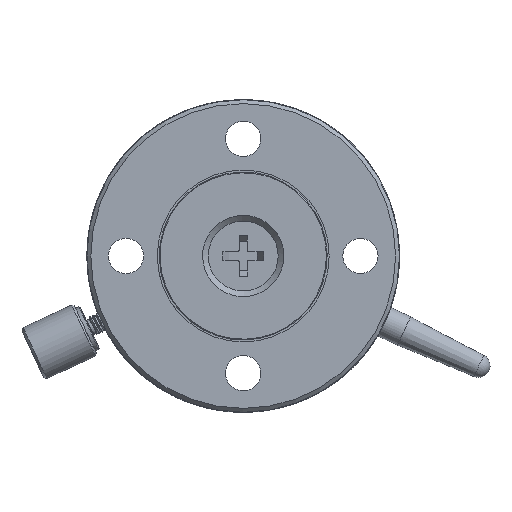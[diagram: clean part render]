
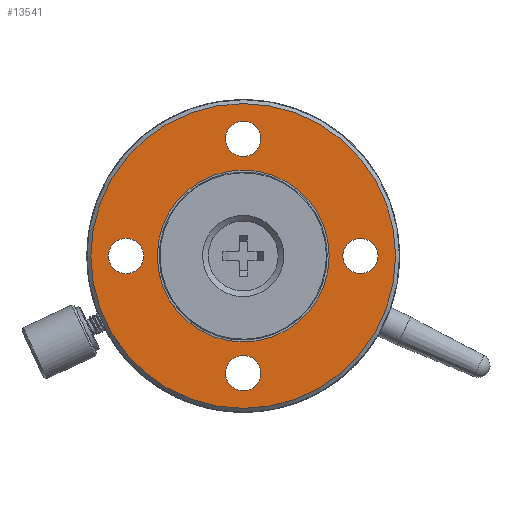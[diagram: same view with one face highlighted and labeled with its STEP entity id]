
A CAD part, front view. The second image highlights one B-rep face of the part: STEP entity #13541.
In plain terms, the highlighted planar face has unit normal (0, -1, 0).
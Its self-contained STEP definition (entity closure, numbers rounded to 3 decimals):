
#434 = DIRECTION ( 'NONE',  ( 0., 0., 1. ) ) ;
#5270 = VERTEX_POINT ( 'NONE', #32963 ) ;
#5706 = VERTEX_POINT ( 'NONE', #12540 ) ;
#6045 = CARTESIAN_POINT ( 'NONE',  ( 23.036, 38.62, 14.208 ) ) ;
#6937 = DIRECTION ( 'NONE',  ( 0., 1., 0. ) ) ;
#8744 = CIRCLE ( 'NONE', #26154, 11. ) ;
#11530 = EDGE_LOOP ( 'NONE', ( #85266 ) ) ;
#12540 = CARTESIAN_POINT ( 'NONE',  ( 23.036, 38.62, 40.208 ) ) ;
#13541 = ADVANCED_FACE ( 'NONE', ( #66664, #73470, #32132, #59855, #53030, #80727 ), #18508, .F. ) ;
#16350 = AXIS2_PLACEMENT_3D ( 'NONE', #77631, #83538, #434 ) ;
#17286 = CARTESIAN_POINT ( 'NONE',  ( 23.036, 38.62, 44.208 ) ) ;
#18097 = DIRECTION ( 'NONE',  ( 0., 0., 1. ) ) ;
#18425 = ORIENTED_EDGE ( 'NONE', *, *, #37138, .T. ) ;
#18508 = PLANE ( 'NONE',  #35395 ) ;
#20691 = CIRCLE ( 'NONE', #16350, 19.5 ) ;
#21542 = AXIS2_PLACEMENT_3D ( 'NONE', #17286, #30026, #58645 ) ;
#21560 = EDGE_LOOP ( 'NONE', ( #76460 ) ) ;
#24015 = EDGE_LOOP ( 'NONE', ( #18425 ) ) ;
#26154 = AXIS2_PLACEMENT_3D ( 'NONE', #79443, #52645, #45854 ) ;
#26847 = EDGE_CURVE ( 'NONE', #74086, #74086, #20691, .T. ) ;
#28454 = CARTESIAN_POINT ( 'NONE',  ( 3.036, 38.62, 29.208 ) ) ;
#29170 = EDGE_LOOP ( 'NONE', ( #80883 ) ) ;
#30026 = DIRECTION ( 'NONE',  ( 0., 1., 0. ) ) ;
#30737 = CARTESIAN_POINT ( 'NONE',  ( 23.036, 38.62, 46.458 ) ) ;
#31841 = ORIENTED_EDGE ( 'NONE', *, *, #26847, .T. ) ;
#32132 = FACE_BOUND ( 'NONE', #43245, .T. ) ;
#32963 = CARTESIAN_POINT ( 'NONE',  ( 23.036, 38.62, 16.458 ) ) ;
#33919 = DIRECTION ( 'NONE',  ( 0., 1., 0. ) ) ;
#35395 = AXIS2_PLACEMENT_3D ( 'NONE', #28454, #33919, #48031 ) ;
#35758 = VERTEX_POINT ( 'NONE', #63487 ) ;
#37138 = EDGE_CURVE ( 'NONE', #37544, #37544, #60691, .T. ) ;
#37544 = VERTEX_POINT ( 'NONE', #30737 ) ;
#39548 = CARTESIAN_POINT ( 'NONE',  ( 23.036, 38.62, 48.708 ) ) ;
#40777 = CIRCLE ( 'NONE', #53793, 2.25 ) ;
#41660 = EDGE_CURVE ( 'NONE', #35758, #35758, #52500, .T. ) ;
#43245 = EDGE_LOOP ( 'NONE', ( #88255 ) ) ;
#43834 = AXIS2_PLACEMENT_3D ( 'NONE', #52686, #87636, #81278 ) ;
#45854 = DIRECTION ( 'NONE',  ( 0., 0., 1. ) ) ;
#48031 = DIRECTION ( 'NONE',  ( 0., 0., 1. ) ) ;
#51732 = CARTESIAN_POINT ( 'NONE',  ( 8.036, 38.62, 29.208 ) ) ;
#52500 = CIRCLE ( 'NONE', #43834, 2.25 ) ;
#52645 = DIRECTION ( 'NONE',  ( 0., 1., 0. ) ) ;
#52686 = CARTESIAN_POINT ( 'NONE',  ( 38.036, 38.62, 29.208 ) ) ;
#53030 = FACE_BOUND ( 'NONE', #21560, .T. ) ;
#53793 = AXIS2_PLACEMENT_3D ( 'NONE', #51732, #58991, #18097 ) ;
#53869 = CARTESIAN_POINT ( 'NONE',  ( 8.036, 38.62, 31.458 ) ) ;
#58645 = DIRECTION ( 'NONE',  ( 0., 0., 1. ) ) ;
#58991 = DIRECTION ( 'NONE',  ( 0., 1., 0. ) ) ;
#59855 = FACE_BOUND ( 'NONE', #11530, .T. ) ;
#60133 = EDGE_CURVE ( 'NONE', #65714, #65714, #40777, .T. ) ;
#60512 = EDGE_CURVE ( 'NONE', #5270, #5270, #74084, .T. ) ;
#60691 = CIRCLE ( 'NONE', #21542, 2.25 ) ;
#63487 = CARTESIAN_POINT ( 'NONE',  ( 38.036, 38.62, 31.458 ) ) ;
#65714 = VERTEX_POINT ( 'NONE', #53869 ) ;
#66664 = FACE_BOUND ( 'NONE', #29170, .T. ) ;
#68276 = DIRECTION ( 'NONE',  ( 0., 0., 1. ) ) ;
#73470 = FACE_OUTER_BOUND ( 'NONE', #87470, .T. ) ;
#74084 = CIRCLE ( 'NONE', #85682, 2.25 ) ;
#74086 = VERTEX_POINT ( 'NONE', #39548 ) ;
#74848 = EDGE_CURVE ( 'NONE', #5706, #5706, #8744, .T. ) ;
#76460 = ORIENTED_EDGE ( 'NONE', *, *, #60133, .T. ) ;
#77631 = CARTESIAN_POINT ( 'NONE',  ( 23.036, 38.62, 29.208 ) ) ;
#79443 = CARTESIAN_POINT ( 'NONE',  ( 23.036, 38.62, 29.208 ) ) ;
#80727 = FACE_BOUND ( 'NONE', #24015, .T. ) ;
#80883 = ORIENTED_EDGE ( 'NONE', *, *, #74848, .T. ) ;
#81278 = DIRECTION ( 'NONE',  ( 0., 0., 1. ) ) ;
#83538 = DIRECTION ( 'NONE',  ( 0., -1., 0. ) ) ;
#85266 = ORIENTED_EDGE ( 'NONE', *, *, #60512, .T. ) ;
#85682 = AXIS2_PLACEMENT_3D ( 'NONE', #6045, #6937, #68276 ) ;
#87470 = EDGE_LOOP ( 'NONE', ( #31841 ) ) ;
#87636 = DIRECTION ( 'NONE',  ( 0., 1., 0. ) ) ;
#88255 = ORIENTED_EDGE ( 'NONE', *, *, #41660, .T. ) ;
